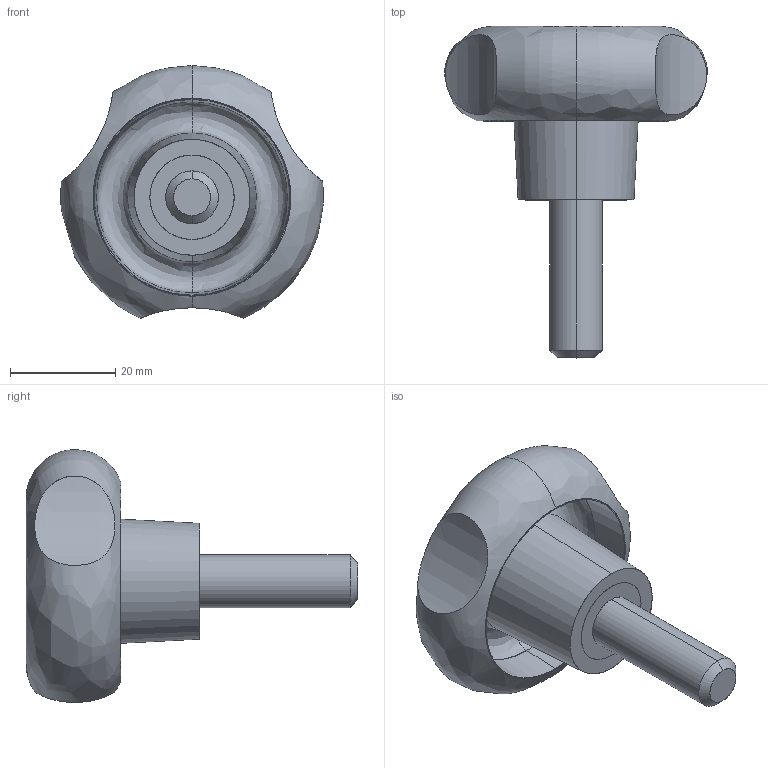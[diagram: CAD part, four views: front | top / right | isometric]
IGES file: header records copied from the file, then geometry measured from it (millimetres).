
Start section: SolidWorks IGES file using analytic representation for surfaces
Global section: file name: C:\Documents and Settings\IanO.IANOHOME\My Documents\Wix and Auto CAD Work\CAD Models\Parametric Models\Wix Models\7059\7059_IGES\7059.W102.igs; native system: SolidWorks 2009; preprocessor: SolidWorks 2009; author: IanO; date: 100907.123705; units: millimetre
Bounding box: 49.96 x 63 x 48 mm (x, y, z)
Surface area: 12080.1 mm2 (no closed solid volume)
Topology: 0 solids, 0 shells, 26 faces, 686 edges, 686 vertices
Faces by surface type: revolution 15, bspline 11
